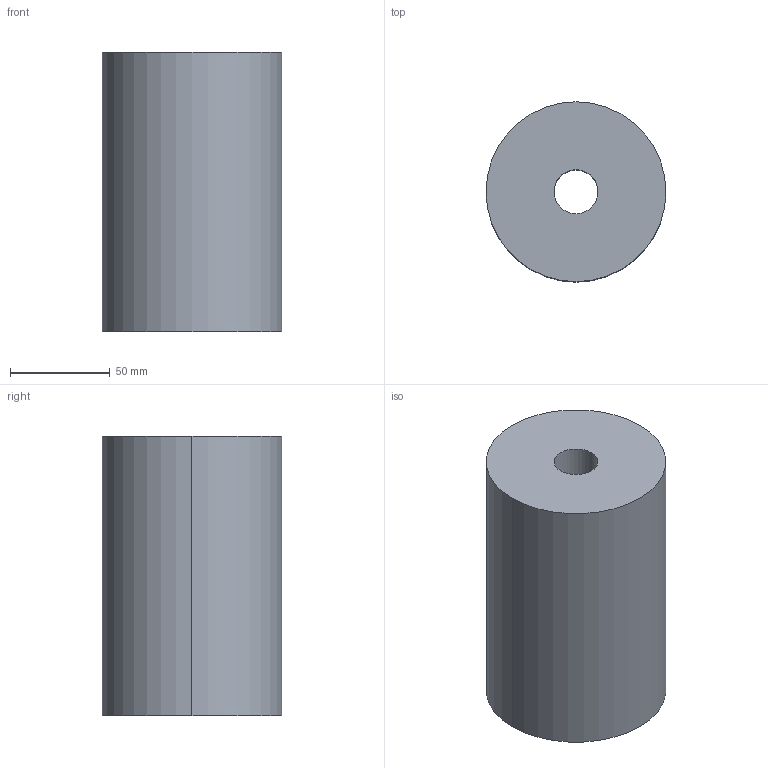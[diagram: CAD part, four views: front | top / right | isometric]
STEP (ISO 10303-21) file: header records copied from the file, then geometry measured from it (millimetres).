
FILE_DESCRIPTION(/* description */ (''),/* implementation_level */ '2;1');
FILE_NAME(/* name */ '3d_e90-140_03709_r00.stp',/* time_stamp */ '2011-01-10T14:15:49+09:00',/* author */ ('MISUMI'),/* organization */ (''),/* preprocessor_version */ 'ST-DEVELOPER v11',/* originating_system */ 'UGS - NX 5.0',/* authorisation */ '');
FILE_SCHEMA (('CONFIG_CONTROL_DESIGN'));
Length unit declared in the file: millimetre
Products named in the file (1): 3d_e90-140_03709_r00
Bounding box: 90 x 90 x 140 mm (x, y, z)
Volume: 837422.9 mm3; surface area: 61223.4 mm2
Topology: 1 solids, 1 shells, 6 faces, 12 edges, 8 vertices
Faces by surface type: cylinder 4, plane 2
Entity records: 254 total; most frequent: DIRECTION 34, CARTESIAN_POINT 27, ORIENTED_EDGE 24, AXIS2_PLACEMENT_3D 15, EDGE_CURVE 12, EDGE_LOOP 8, VERTEX_POINT 8, CIRCLE 8
